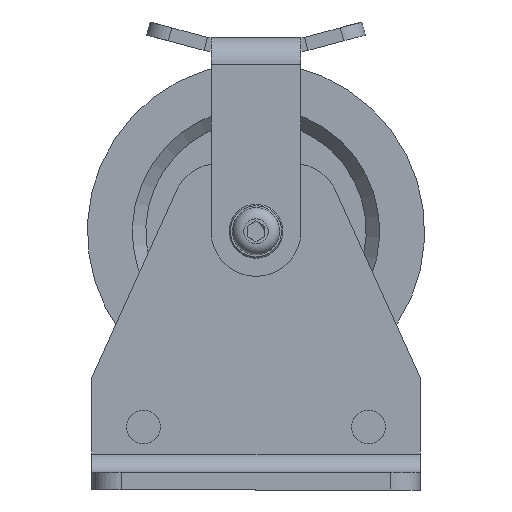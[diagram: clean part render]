
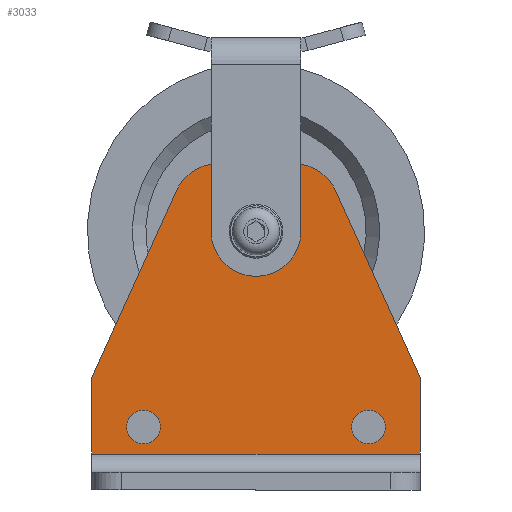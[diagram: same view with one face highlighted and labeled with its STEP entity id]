
A CAD part, front view. The second image highlights one B-rep face of the part: STEP entity #3033.
In plain terms, the highlighted planar face has unit normal (0, -1, 0) as drawn and (0, 0, 1) by its records, which use the part's own axes.
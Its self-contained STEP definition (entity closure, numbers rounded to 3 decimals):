
#221=FACE_BOUND('',#571,.T.);
#222=FACE_BOUND('',#572,.T.);
#223=FACE_BOUND('',#573,.T.);
#287=PLANE('',#3553);
#385=FACE_OUTER_BOUND('',#570,.T.);
#570=EDGE_LOOP('',(#2225,#2226,#2227,#2228,#2229,#2230,#2231,#2232));
#571=EDGE_LOOP('',(#2233));
#572=EDGE_LOOP('',(#2234));
#573=EDGE_LOOP('',(#2235));
#800=LINE('',#5072,#976);
#803=LINE('',#5078,#979);
#811=LINE('',#5112,#987);
#815=LINE('',#5121,#991);
#818=LINE('',#5128,#994);
#819=LINE('',#5130,#995);
#976=VECTOR('',#4036,10.);
#979=VECTOR('',#4041,10.);
#987=VECTOR('',#4075,10.);
#991=VECTOR('',#4085,10.);
#994=VECTOR('',#4094,10.);
#995=VECTOR('',#4097,10.);
#1140=CIRCLE('',#3540,7.5);
#1141=CIRCLE('',#3542,7.5);
#1142=CIRCLE('',#3544,6.3);
#1143=CIRCLE('',#3547,20.);
#1144=CIRCLE('',#3550,20.);
#1368=VERTEX_POINT('',#5063);
#1369=VERTEX_POINT('',#5067);
#1371=VERTEX_POINT('',#5076);
#1380=VERTEX_POINT('',#5098);
#1381=VERTEX_POINT('',#5102);
#1382=VERTEX_POINT('',#5106);
#1383=VERTEX_POINT('',#5110);
#1384=VERTEX_POINT('',#5111);
#1385=VERTEX_POINT('',#5116);
#1386=VERTEX_POINT('',#5120);
#1387=VERTEX_POINT('',#5124);
#1693=EDGE_CURVE('',#1368,#1369,#800,.T.);
#1696=EDGE_CURVE('',#1371,#1369,#803,.T.);
#1707=EDGE_CURVE('',#1380,#1380,#1140,.T.);
#1709=EDGE_CURVE('',#1381,#1381,#1141,.T.);
#1711=EDGE_CURVE('',#1382,#1382,#1142,.T.);
#1712=EDGE_CURVE('',#1383,#1384,#811,.T.);
#1715=EDGE_CURVE('',#1384,#1385,#1143,.T.);
#1717=EDGE_CURVE('',#1385,#1386,#815,.T.);
#1719=EDGE_CURVE('',#1386,#1387,#1144,.T.);
#1721=EDGE_CURVE('',#1387,#1371,#818,.T.);
#1722=EDGE_CURVE('',#1368,#1383,#819,.T.);
#2225=ORIENTED_EDGE('',*,*,#1693,.T.);
#2226=ORIENTED_EDGE('',*,*,#1696,.F.);
#2227=ORIENTED_EDGE('',*,*,#1721,.F.);
#2228=ORIENTED_EDGE('',*,*,#1719,.F.);
#2229=ORIENTED_EDGE('',*,*,#1717,.F.);
#2230=ORIENTED_EDGE('',*,*,#1715,.F.);
#2231=ORIENTED_EDGE('',*,*,#1712,.F.);
#2232=ORIENTED_EDGE('',*,*,#1722,.F.);
#2233=ORIENTED_EDGE('',*,*,#1707,.T.);
#2234=ORIENTED_EDGE('',*,*,#1709,.T.);
#2235=ORIENTED_EDGE('',*,*,#1711,.T.);
#3033=ADVANCED_FACE('',(#385,#221,#222,#223),#287,.T.);
#3540=AXIS2_PLACEMENT_3D('',#5100,#4061,#4062);
#3542=AXIS2_PLACEMENT_3D('',#5104,#4066,#4067);
#3544=AXIS2_PLACEMENT_3D('',#5108,#4071,#4072);
#3547=AXIS2_PLACEMENT_3D('',#5117,#4080,#4081);
#3550=AXIS2_PLACEMENT_3D('',#5125,#4089,#4090);
#3553=AXIS2_PLACEMENT_3D('',#5131,#4098,#4099);
#4036=DIRECTION('',(1.,0.,0.));
#4041=DIRECTION('',(0.,-1.,0.));
#4061=DIRECTION('center_axis',(0.,0.,-1.));
#4062=DIRECTION('ref_axis',(-1.,0.,0.));
#4066=DIRECTION('center_axis',(0.,0.,-1.));
#4067=DIRECTION('ref_axis',(-1.,0.,0.));
#4071=DIRECTION('center_axis',(0.,0.,-1.));
#4072=DIRECTION('ref_axis',(-1.,0.,0.));
#4075=DIRECTION('',(0.412,0.911,0.));
#4080=DIRECTION('center_axis',(0.,0.,-1.));
#4081=DIRECTION('ref_axis',(0.,1.,0.));
#4085=DIRECTION('',(1.,0.,0.));
#4089=DIRECTION('center_axis',(0.,0.,-1.));
#4090=DIRECTION('ref_axis',(0.911,0.412,0.));
#4094=DIRECTION('',(0.412,-0.911,0.));
#4097=DIRECTION('',(0.,1.,0.));
#4098=DIRECTION('center_axis',(0.,0.,1.));
#4099=DIRECTION('ref_axis',(1.,0.,0.));
#5063=CARTESIAN_POINT('',(-73.,16.,8.));
#5067=CARTESIAN_POINT('',(73.,16.,8.));
#5072=CARTESIAN_POINT('',(36.5,16.,8.));
#5076=CARTESIAN_POINT('',(73.,50.,8.));
#5078=CARTESIAN_POINT('',(73.,0.,8.));
#5098=CARTESIAN_POINT('',(57.5,28.,8.));
#5100=CARTESIAN_POINT('Origin',(50.,28.,8.));
#5102=CARTESIAN_POINT('',(-42.5,28.,8.));
#5104=CARTESIAN_POINT('Origin',(-50.,28.,8.));
#5106=CARTESIAN_POINT('',(6.3,115.,8.));
#5108=CARTESIAN_POINT('Origin',(0.,115.,8.));
#5110=CARTESIAN_POINT('',(-73.,50.,8.));
#5111=CARTESIAN_POINT('',(-35.32,133.247,8.));
#5112=CARTESIAN_POINT('',(-35.32,133.247,8.));
#5116=CARTESIAN_POINT('',(-17.099,145.,8.));
#5117=CARTESIAN_POINT('Origin',(-17.099,125.,8.));
#5120=CARTESIAN_POINT('',(17.099,145.,8.));
#5121=CARTESIAN_POINT('',(17.099,145.,8.));
#5124=CARTESIAN_POINT('',(35.32,133.247,8.));
#5125=CARTESIAN_POINT('Origin',(17.099,125.,8.));
#5128=CARTESIAN_POINT('',(73.,50.,8.));
#5130=CARTESIAN_POINT('',(-73.,50.,8.));
#5131=CARTESIAN_POINT('Origin',(0.,60.247,8.));
